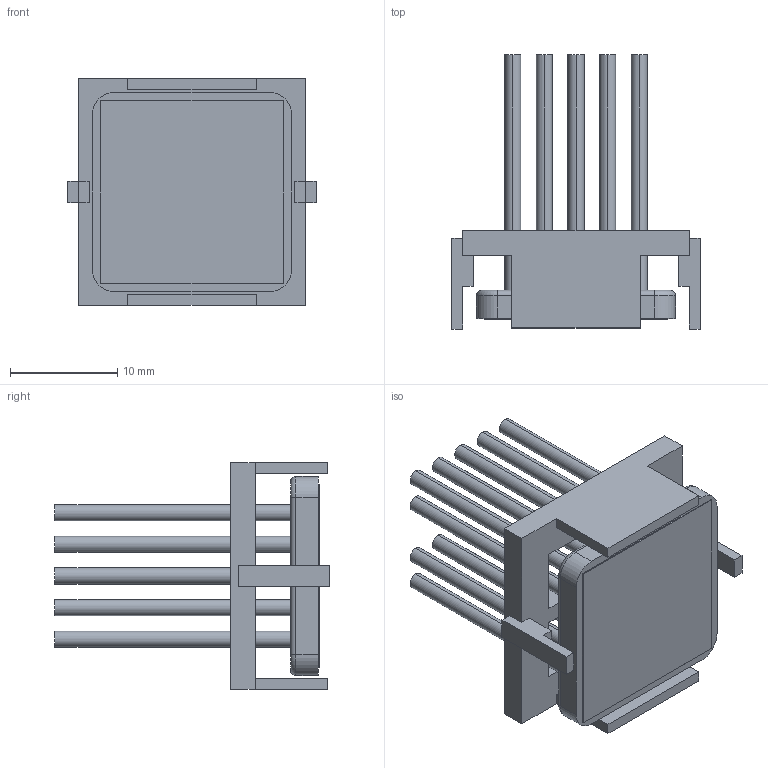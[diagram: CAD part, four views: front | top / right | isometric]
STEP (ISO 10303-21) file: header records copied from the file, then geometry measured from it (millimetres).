
FILE_DESCRIPTION (( 'STEP AP214' ), '1' );
FILE_NAME ('INM19002-25PCU-2.6O.STEP', '2023-03-02T22:41:53', ( '' ), ( '' ), 'SwSTEP 2.0', 'SolidWorks 2020', '' );
FILE_SCHEMA (( 'AUTOMOTIVE_DESIGN' ));
Length unit declared in the file: millimetre
Products named in the file (1): INM19002-25PCU-2.6O
Bounding box: 23.2 x 25.6 x 21.2 mm (x, y, z)
Volume: 2585.7 mm3; surface area: 5030.9 mm2
Topology: 3 solids, 3 shells, 133 faces, 310 edges, 204 vertices
Faces by surface type: plane 79, cylinder 50, torus 4
Entity records: 5323 total; most frequent: DIRECTION 682, CARTESIAN_POINT 648, ORIENTED_EDGE 620, EDGE_CURVE 310, AXIS2_PLACEMENT_3D 238, LINE 206, VECTOR 206, VERTEX_POINT 204
